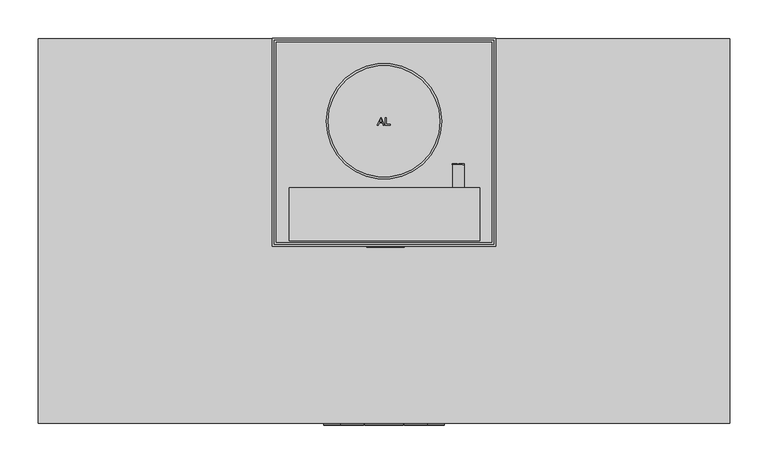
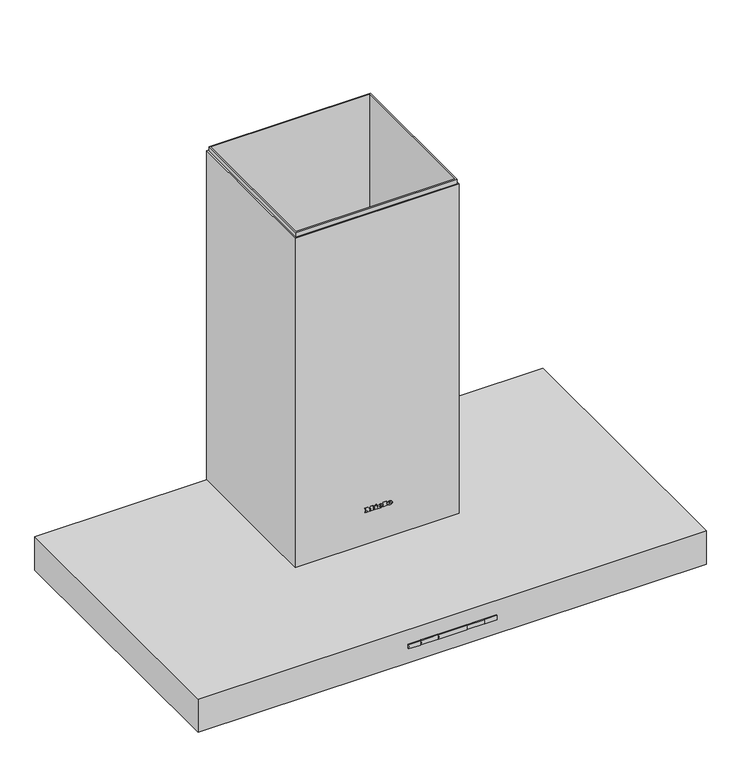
"""IFC4 building model written with IfcOpenShell, lengths in millimetres: proxy geometry, 12540930_CH_PUR98W_MASW : 28419855_CH_12540930_PUR98W_MASW."""

from ifc_helpers import new_model, si_unit, point, frame, frame_2d, origin, place, context, project, spatial, polyline, circle_curve, ellipse_curve, trimmed, segment, composite_curve, outline, extrude, faceted_brep, source, transform, mapped, element, save
from ifc_brep_helpers import plane_surface, cylinder_surface, revolved_surface, extruded_surface, advanced_brep


def specialty_equipment_63e72537(model_context):
    return source(origin(), model_context, "Body", "SolidModel", [
        advanced_brep(
        [(-27.2862224, -435.7, 0.8), (27.2862224, -435.7, 0.8), (29.0, -435.7, 2.0), (-29.0, -435.7, 2.0), (0.0, -435.7, 0.8), (0.0, -435.7, 2.0)],
        [
            (0, 1, circle_curve(frame((0.0, -435.7, 0.8), z_axis=(0.0, 0.0, 1.0), x_axis=(1.0, 0.0, 0.0)), 27.2862224)),
            (1, 2),
            (2, 3, circle_curve(frame((0.0, -435.7, 2.0), z_axis=(0.0, 0.0, -1.0), x_axis=(1.0, 0.0, 0.0)), 29.0)),
            (3, 0),
            (1, 0, circle_curve(frame((0.0, -435.7, 0.8), z_axis=(0.0, 0.0, 1.0), x_axis=(1.0, 0.0, 0.0)), 27.2862224)),
            (3, 2, circle_curve(frame((0.0, -435.7, 2.0), z_axis=(0.0, 0.0, -1.0), x_axis=(1.0, 0.0, 0.0)), 29.0)),
            (4, 1),
            (0, 4),
            (2, 5),
            (5, 3),
        ],
        [
            revolved_surface(polyline([(29.0, -435.7, 2.0), (27.2862224, -435.7, 0.8)]), (0.0, -435.7, 1830.7560264), (0.0, 0.0, -1.0)),
            plane_surface(frame((0.0, -435.7, 0.8), z_axis=(0.0, 0.0, -1.0), x_axis=(1.0, 0.0, 0.0))),
            plane_surface(frame((0.0, -435.7, 2.0), z_axis=(0.0, 0.0, 1.0), x_axis=(1.0, 0.0, 0.0))),
        ],
        [
            (0, [[1, 2, 3, 4]]),
            (0, [[5, -4, 6, -2]]),
            (1, [[7, -1, 8]]),
            (1, [[-8, -5, -7]]),
            (2, [[-3, 9, 10]]),
            (2, [[-6, -10, -9]]),
        ],
    ),
        advanced_brep(
        [(-296.5433287, -435.7, 0.8), (-243.4566713, -435.7, 0.8), (-240.883263, -435.7, 2.0), (-299.116737, -435.7, 2.0), (-270.0, -435.7, 0.8), (-270.0, -435.7, 2.0)],
        [
            (0, 1, circle_curve(frame((-270.0, -435.7, 0.8), z_axis=(0.0, 0.0, 1.0), x_axis=(1.0, 0.0, 0.0)), 26.5433287)),
            (1, 2),
            (2, 3, circle_curve(frame((-270.0, -435.7, 2.0), z_axis=(0.0, 0.0, -1.0), x_axis=(1.0, 0.0, 0.0)), 29.116737)),
            (3, 0),
            (1, 0, circle_curve(frame((-270.0, -435.7, 0.8), z_axis=(0.0, 0.0, 1.0), x_axis=(1.0, 0.0, 0.0)), 26.5433287)),
            (3, 2, circle_curve(frame((-270.0, -435.7, 2.0), z_axis=(0.0, 0.0, -1.0), x_axis=(1.0, 0.0, 0.0)), 29.116737)),
            (0, 4),
            (4, 1),
            (2, 5),
            (5, 3),
        ],
        [
            revolved_surface(polyline([(-240.883263, -435.7, 2.0), (-243.4566713, -435.7, 0.8)]), (-270.0, -435.7, 2240.4), (0.0, 0.0, -1.0)),
            plane_surface(frame((-270.0, -435.7, 0.8), z_axis=(0.0, 0.0, -1.0), x_axis=(1.0, 0.0, 0.0))),
            plane_surface(frame((-270.0, -435.7, 2.0), z_axis=(0.0, 0.0, 1.0), x_axis=(1.0, 0.0, 0.0))),
        ],
        [
            (0, [[1, 2, 3, 4]]),
            (0, [[-2, 5, -4, 6]]),
            (1, [[-1, 7, 8]]),
            (1, [[-5, -8, -7]]),
            (2, [[-3, 9, 10]]),
            (2, [[-6, -10, -9]]),
        ],
    ),
        advanced_brep(
        [(243.4566713, -435.7, 0.8), (296.5433287, -435.7, 0.8), (299.116737, -435.7, 2.0), (240.883263, -435.7, 2.0), (270.0, -435.7, 0.8), (270.0, -435.7, 2.0)],
        [
            (0, 1, circle_curve(frame((270.0, -435.7, 0.8), z_axis=(0.0, 0.0, 1.0), x_axis=(1.0, 0.0, 0.0)), 26.5433287)),
            (1, 2),
            (2, 3, circle_curve(frame((270.0, -435.7, 2.0), z_axis=(0.0, 0.0, -1.0), x_axis=(1.0, 0.0, 0.0)), 29.116737)),
            (3, 0),
            (1, 0, circle_curve(frame((270.0, -435.7, 0.8), z_axis=(0.0, 0.0, 1.0), x_axis=(1.0, 0.0, 0.0)), 26.5433287)),
            (3, 2, circle_curve(frame((270.0, -435.7, 2.0), z_axis=(0.0, 0.0, -1.0), x_axis=(1.0, 0.0, 0.0)), 29.116737)),
            (0, 4),
            (4, 1),
            (2, 5),
            (5, 3),
        ],
        [
            revolved_surface(polyline([(299.116737, -435.7, 2.0), (296.5433287, -435.7, 0.8)]), (270.0, -435.7, 2240.4), (0.0, 0.0, -1.0)),
            plane_surface(frame((270.0, -435.7, 0.8), z_axis=(0.0, 0.0, -1.0), x_axis=(1.0, 0.0, 0.0))),
            plane_surface(frame((270.0, -435.7, 2.0), z_axis=(0.0, 0.0, 1.0), x_axis=(1.0, 0.0, 0.0))),
        ],
        [
            (0, [[1, 2, 3, 4]]),
            (0, [[-2, 5, -4, 6]]),
            (1, [[-1, 7, 8]]),
            (1, [[-5, -8, -7]]),
            (2, [[-3, 9, 10]]),
            (2, [[-6, -10, -9]]),
        ],
    ),
        extrude(outline(polyline([(134.3333333, -34.0), (134.3333333, -391.0), (-134.3333333, -391.0), (-134.3333333, -34.0), (134.3333333, -34.0)])), frame((0.0, 0.0, 6.5), z_axis=(0.0, 0.0, 1.0), x_axis=(1.0, 0.0, 0.0)), (0.0, 0.0, 1.0), 6.0),
        extrude(outline(polyline([(143.3333333, -25.0), (143.3333333, -400.0), (-143.3333333, -400.0), (-143.3333333, -25.0), (143.3333333, -25.0)]), holes=[polyline([(134.3333333, -34.0), (-134.3333333, -34.0), (-134.3333333, -391.0), (134.3333333, -391.0), (134.3333333, -34.0)])]), frame((0.0, 0.0, 5.0), z_axis=(0.0, 0.0, 1.0), x_axis=(1.0, 0.0, 0.0)), (0.0, 0.0, 1.0), 9.0),
        extrude(outline(polyline([(152.3333333, -34.0), (421.0, -34.0), (421.0, -391.0), (152.3333333, -391.0), (152.3333333, -34.0)])), frame((0.0, 0.0, 6.5), z_axis=(0.0, 0.0, 1.0), x_axis=(1.0, 0.0, 0.0)), (0.0, 0.0, 1.0), 6.0),
        extrude(outline(polyline([(143.3333333, -25.0), (430.0, -25.0), (430.0, -400.0), (143.3333333, -400.0), (143.3333333, -25.0)]), holes=[polyline([(152.3333333, -34.0), (152.3333333, -391.0), (421.0, -391.0), (421.0, -34.0), (152.3333333, -34.0)])]), frame((0.0, 0.0, 5.0), z_axis=(0.0, 0.0, 1.0), x_axis=(1.0, 0.0, 0.0)), (0.0, 0.0, 1.0), 9.0),
        extrude(outline(polyline([(-152.3333333, -34.0), (-152.3333333, -391.0), (-421.0, -391.0), (-421.0, -34.0), (-152.3333333, -34.0)])), frame((0.0, 0.0, 6.5), z_axis=(0.0, 0.0, 1.0), x_axis=(1.0, 0.0, 0.0)), (0.0, 0.0, 1.0), 6.0),
        extrude(outline(polyline([(-143.3333333, -25.0), (-143.3333333, -400.0), (-430.0, -400.0), (-430.0, -25.0), (-143.3333333, -25.0)]), holes=[polyline([(-152.3333333, -34.0), (-421.0, -34.0), (-421.0, -391.0), (-152.3333333, -391.0), (-152.3333333, -34.0)])]), frame((0.0, 0.0, 5.0), z_axis=(0.0, 0.0, 1.0), x_axis=(1.0, 0.0, 0.0)), (0.0, 0.0, 1.0), 9.0),
        extrude(outline(polyline([(16.5, -348.0), (16.5, -391.0), (-16.5, -391.0), (-16.5, -348.0), (16.5, -348.0)]), holes=[polyline([(10.0, -354.5), (-10.0, -354.5), (-10.0, -363.5), (10.0, -363.5), (10.0, -354.5)])]), frame((0.0, 0.0, 5.0), z_axis=(0.0, 0.0, 1.0), x_axis=(1.0, 0.0, 0.0)), (0.0, 0.0, 1.0), 1.5),
        extrude(outline(polyline([(270.1666667, -348.0), (303.1666667, -348.0), (303.1666667, -391.0), (270.1666667, -391.0), (270.1666667, -348.0)]), holes=[polyline([(276.6666667, -354.5), (276.6666667, -363.5), (296.4380995, -363.5), (296.4380995, -354.5), (276.6666667, -354.5)])]), frame((0.0, 0.0, 5.0), z_axis=(0.0, 0.0, 1.0), x_axis=(1.0, 0.0, 0.0)), (0.0, 0.0, 1.0), 1.5),
        extrude(outline(polyline([(-270.1666667, -348.0), (-270.1666667, -391.0), (-303.1666667, -391.0), (-303.1666667, -348.0), (-270.1666667, -348.0)]), holes=[polyline([(-276.6666667, -354.5), (-296.6666667, -354.5), (-296.6666667, -363.5), (-276.6666667, -363.5), (-276.6666667, -354.5)])]), frame((0.0, 0.0, 5.0), z_axis=(0.0, 0.0, 1.0), x_axis=(1.0, 0.0, 0.0)), (0.0, 0.0, 1.0), 1.5),
        faceted_brep([(140.0, -5.0, 685.0), (-140.0, -5.0, 685.0), (-140.0, -5.0, 210.0), (140.0, -5.0, 210.0), (-140.0, -265.0, 685.0), (140.0, -265.0, 685.0), (140.0, -265.0, 210.0), (-140.0, -265.0, 210.0), (121.0, -265.0, 245.0), (121.0, -265.0, 345.0), (109.0, -265.0, 345.0), (109.0, -265.0, 245.0), (-121.0, -265.0, 345.0), (-121.0, -265.0, 245.0), (-109.0, -265.0, 245.0), (-109.0, -265.0, 345.0), (-86.0, -265.0, 345.0), (-97.5, -265.0, 345.0), (-97.5, -265.0, 245.0), (-86.0, -265.0, 245.0), (-63.0, -265.0, 345.0), (-74.5, -265.0, 345.0), (-74.5, -265.0, 245.0), (-63.0, -265.0, 245.0), (-40.0, -265.0, 345.0), (-51.5, -265.0, 345.0), (-51.5, -265.0, 245.0), (-40.0, -265.0, 245.0), (-17.0, -265.0, 345.0), (-28.5, -265.0, 345.0), (-28.5, -265.0, 245.0), (-17.0, -265.0, 245.0), (5.5, -265.0, 345.0), (-5.5, -265.0, 345.0), (-5.5, -265.0, 245.0), (5.5, -265.0, 245.0), (28.5, -265.0, 345.0), (17.0, -265.0, 345.0), (17.0, -265.0, 245.0), (28.5, -265.0, 245.0), (51.5, -265.0, 345.0), (40.0, -265.0, 345.0), (40.0, -265.0, 245.0), (51.5, -265.0, 245.0), (74.5, -265.0, 345.0), (63.0, -265.0, 345.0), (63.0, -265.0, 245.0), (74.5, -265.0, 245.0), (97.5, -265.0, 345.0), (86.0, -265.0, 345.0), (86.0, -265.0, 245.0), (97.5, -265.0, 245.0), (-142.5, -65.4, 245.0), (-140.0, -65.4, 245.0), (-140.0, -65.4, 345.0), (-142.5, -65.4, 345.0), (-140.0, -76.0, 345.0), (-142.5, -76.0, 345.0), (-140.0, -44.2, 245.0), (-142.5, -44.2, 245.0), (-142.5, -54.8, 245.0), (-140.0, -54.8, 245.0), (-140.0, -44.2, 345.0), (-142.5, -44.2, 345.0), (-140.0, -23.0, 245.0), (-142.5, -23.0, 245.0), (-142.5, -33.6, 245.0), (-140.0, -33.6, 245.0), (-140.0, -23.0, 345.0), (-142.5, -23.0, 345.0), (-121.0, -267.5, 345.0), (-109.0, -267.5, 345.0), (-109.0, -267.5, 245.0), (-86.0, -267.5, 345.0), (-97.5, -267.5, 345.0), (-63.0, -267.5, 345.0), (-74.5, -267.5, 345.0), (-40.0, -267.5, 345.0), (-51.5, -267.5, 345.0), (-17.0, -267.5, 345.0), (-28.5, -267.5, 345.0), (5.5, -267.5, 345.0), (-5.5, -267.5, 345.0), (28.5, -267.5, 345.0), (17.0, -267.5, 345.0), (51.5, -267.5, 345.0), (40.0, -267.5, 345.0), (74.5, -267.5, 345.0), (63.0, -267.5, 345.0), (97.5, -267.5, 345.0), (86.0, -267.5, 345.0), (-142.5, -267.5, 685.0), (142.5, -267.5, 685.0), (142.5, -2.5, 685.0), (-142.5, -2.5, 685.0), (-142.5, -267.5, 210.0), (-142.5, -2.5, 210.0), (142.5, -2.5, 210.0), (142.5, -267.5, 210.0), (-142.5, -247.0, 245.0), (-142.5, -236.4, 245.0), (-142.5, -236.4, 345.0), (-142.5, -247.0, 345.0), (-142.5, -225.8, 245.0), (-142.5, -215.2, 245.0), (-142.5, -215.2, 345.0), (-142.5, -225.8, 345.0), (-142.5, -204.6, 245.0), (-142.5, -194.0, 245.0), (-142.5, -194.0, 345.0), (-142.5, -204.6, 345.0), (-142.5, -183.4, 245.0), (-142.5, -172.8, 245.0), (-142.5, -172.8, 345.0), (-142.5, -183.4, 345.0), (-142.5, -162.2, 245.0), (-142.5, -151.6, 245.0), (-142.5, -151.6, 345.0), (-142.5, -162.2, 345.0), (-142.5, -141.0, 245.0), (-142.5, -129.0, 245.0), (-142.5, -129.0, 345.0), (-142.5, -141.0, 345.0), (-142.5, -118.4, 245.0), (-142.5, -107.8, 245.0), (-142.5, -107.8, 345.0), (-142.5, -118.4, 345.0), (-142.5, -97.2, 245.0), (-142.5, -86.6, 245.0), (-142.5, -86.6, 345.0), (-142.5, -97.2, 345.0), (-142.5, -76.0, 245.0), (-142.5, -54.8, 345.0), (-142.5, -33.6, 345.0), (-140.0, -236.4, 245.0), (-140.0, -247.0, 245.0), (-140.0, -247.0, 345.0), (-140.0, -236.4, 345.0), (-140.0, -215.2, 245.0), (-140.0, -225.8, 245.0), (-140.0, -225.8, 345.0), (-140.0, -215.2, 345.0), (-140.0, -194.0, 245.0), (-140.0, -204.6, 245.0), (-140.0, -204.6, 345.0), (-140.0, -194.0, 345.0), (-140.0, -172.8, 245.0), (-140.0, -183.4, 245.0), (-140.0, -183.4, 345.0), (-140.0, -172.8, 345.0), (-140.0, -151.6, 245.0), (-140.0, -162.2, 245.0), (-140.0, -162.2, 345.0), (-140.0, -151.6, 345.0), (-140.0, -129.0, 245.0), (-140.0, -141.0, 245.0), (-140.0, -141.0, 345.0), (-140.0, -129.0, 345.0), (-140.0, -107.8, 245.0), (-140.0, -118.4, 245.0), (-140.0, -118.4, 345.0), (-140.0, -107.8, 345.0), (-140.0, -86.6, 245.0), (-140.0, -97.2, 245.0), (-140.0, -97.2, 345.0), (-140.0, -86.6, 345.0), (-140.0, -76.0, 245.0), (-140.0, -54.8, 345.0), (-140.0, -33.6, 345.0), (140.0, -162.2, 345.0), (140.0, -162.2, 245.0), (140.0, -151.6, 245.0), (140.0, -151.6, 345.0), (140.0, -44.2, 245.0), (140.0, -44.2, 345.0), (140.0, -54.8, 345.0), (140.0, -54.8, 245.0), (140.0, -65.4, 245.0), (140.0, -65.4, 345.0), (140.0, -76.0, 345.0), (140.0, -76.0, 245.0), (140.0, -86.6, 245.0), (140.0, -86.6, 345.0), (140.0, -97.2, 345.0), (140.0, -97.2, 245.0), (140.0, -107.8, 245.0), (140.0, -107.8, 345.0), (140.0, -118.4, 345.0), (140.0, -118.4, 245.0), (140.0, -129.0, 245.0), (140.0, -129.0, 345.0), (140.0, -141.0, 345.0), (140.0, -141.0, 245.0), (140.0, -247.0, 345.0), (140.0, -247.0, 245.0), (140.0, -236.4, 245.0), (140.0, -236.4, 345.0), (140.0, -23.0, 245.0), (140.0, -23.0, 345.0), (140.0, -33.6, 345.0), (140.0, -33.6, 245.0), (140.0, -225.8, 345.0), (140.0, -225.8, 245.0), (140.0, -215.2, 245.0), (140.0, -215.2, 345.0), (140.0, -204.6, 345.0), (140.0, -204.6, 245.0), (140.0, -194.0, 245.0), (140.0, -194.0, 345.0), (140.0, -183.4, 345.0), (140.0, -183.4, 245.0), (140.0, -172.8, 245.0), (140.0, -172.8, 345.0), (142.5, -225.8, 245.0), (142.5, -225.8, 345.0), (142.5, -215.2, 345.0), (142.5, -215.2, 245.0), (142.5, -204.6, 245.0), (142.5, -204.6, 345.0), (142.5, -194.0, 345.0), (142.5, -194.0, 245.0), (142.5, -183.4, 245.0), (142.5, -183.4, 345.0), (142.5, -172.8, 345.0), (142.5, -172.8, 245.0), (142.5, -162.2, 245.0), (142.5, -162.2, 345.0), (142.5, -151.6, 345.0), (142.5, -151.6, 245.0), (142.5, -44.2, 345.0), (142.5, -44.2, 245.0), (142.5, -54.8, 245.0), (142.5, -54.8, 345.0), (142.5, -65.4, 345.0), (142.5, -65.4, 245.0), (142.5, -76.0, 245.0), (142.5, -76.0, 345.0), (142.5, -86.6, 345.0), (142.5, -86.6, 245.0), (142.5, -97.2, 245.0), (142.5, -97.2, 345.0), (142.5, -107.8, 345.0), (142.5, -107.8, 245.0), (142.5, -118.4, 245.0), (142.5, -118.4, 345.0), (142.5, -129.0, 345.0), (142.5, -129.0, 245.0), (142.5, -141.0, 245.0), (142.5, -141.0, 345.0), (142.5, -23.0, 345.0), (142.5, -23.0, 245.0), (142.5, -33.6, 245.0), (142.5, -33.6, 345.0), (142.5, -247.0, 245.0), (142.5, -247.0, 345.0), (142.5, -236.4, 345.0), (142.5, -236.4, 245.0), (-86.0, -267.5, 245.0), (-97.5, -267.5, 245.0), (-63.0, -267.5, 245.0), (-74.5, -267.5, 245.0), (-40.0, -267.5, 245.0), (-51.5, -267.5, 245.0), (-17.0, -267.5, 245.0), (-28.5, -267.5, 245.0), (5.5, -267.5, 245.0), (-5.5, -267.5, 245.0), (28.5, -267.5, 245.0), (17.0, -267.5, 245.0), (51.5, -267.5, 245.0), (40.0, -267.5, 245.0), (74.5, -267.5, 245.0), (63.0, -267.5, 245.0), (97.5, -267.5, 245.0), (86.0, -267.5, 245.0), (121.0, -267.5, 345.0), (121.0, -267.5, 245.0), (109.0, -267.5, 245.0), (109.0, -267.5, 345.0), (-121.0, -267.5, 245.0)], [[[0, 1, 2, 3]], [[4, 5, 6, 7], [8, 9, 10, 11], [12, 13, 14, 15], [16, 17, 18, 19], [20, 21, 22, 23], [24, 25, 26, 27], [28, 29, 30, 31], [32, 33, 34, 35], [36, 37, 38, 39], [40, 41, 42, 43], [44, 45, 46, 47], [48, 49, 50, 51]], [[52, 53, 54, 55]], [[55, 54, 56, 57]], [[58, 59, 60, 61]], [[59, 58, 62, 63]], [[64, 65, 66, 67]], [[65, 64, 68, 69]], [[70, 12, 15, 71]], [[71, 15, 14, 72]], [[16, 73, 74, 17]], [[20, 75, 76, 21]], [[24, 77, 78, 25]], [[28, 79, 80, 29]], [[32, 81, 82, 33]], [[36, 83, 84, 37]], [[40, 85, 86, 41]], [[44, 87, 88, 45]], [[48, 89, 90, 49]], [[91, 92, 93, 94], [0, 5, 4, 1]], [[95, 96, 97, 98], [3, 2, 7, 6]], [[91, 94, 96, 95], [99, 100, 101, 102], [103, 104, 105, 106], [107, 108, 109, 110], [111, 112, 113, 114], [115, 116, 117, 118], [119, 120, 121, 122], [123, 124, 125, 126], [127, 128, 129, 130], [131, 52, 55, 57], [60, 59, 63, 132], [66, 65, 69, 133]], [[1, 4, 7, 2], [134, 135, 136, 137], [138, 139, 140, 141], [142, 143, 144, 145], [146, 147, 148, 149], [150, 151, 152, 153], [154, 155, 156, 157], [158, 159, 160, 161], [162, 163, 164, 165], [53, 166, 56, 54], [58, 61, 167, 62], [64, 67, 168, 68]], [[5, 0, 3, 6], [169, 170, 171, 172], [173, 174, 175, 176], [177, 178, 179, 180], [181, 182, 183, 184], [185, 186, 187, 188], [189, 190, 191, 192], [193, 194, 195, 196], [197, 198, 199, 200], [201, 202, 203, 204], [205, 206, 207, 208], [209, 210, 211, 212]], [[93, 92, 98, 97], [213, 214, 215, 216], [217, 218, 219, 220], [221, 222, 223, 224], [225, 226, 227, 228], [229, 230, 231, 232], [233, 234, 235, 236], [237, 238, 239, 240], [241, 242, 243, 244], [245, 246, 247, 248], [249, 250, 251, 252], [253, 254, 255, 256]], [[92, 91, 95, 98], [74, 73, 257, 258], [76, 75, 259, 260], [78, 77, 261, 262], [80, 79, 263, 264], [82, 81, 265, 266], [84, 83, 267, 268], [86, 85, 269, 270], [88, 87, 271, 272], [90, 89, 273, 274], [275, 276, 277, 278], [279, 70, 71, 72]], [[94, 93, 97, 96]], [[8, 276, 275, 9]], [[12, 70, 279, 13]], [[253, 194, 193, 254]], [[249, 198, 197, 250]], [[194, 253, 256, 195]], [[195, 256, 255, 196]], [[254, 193, 196, 255]], [[198, 249, 252, 199]], [[199, 252, 251, 200]], [[250, 197, 200, 251]], [[213, 202, 201, 214]], [[202, 213, 216, 203]], [[203, 216, 215, 204]], [[214, 201, 204, 215]], [[217, 206, 205, 218]], [[206, 217, 220, 207]], [[207, 220, 219, 208]], [[218, 205, 208, 219]], [[221, 210, 209, 222]], [[210, 221, 224, 211]], [[211, 224, 223, 212]], [[222, 209, 212, 223]], [[225, 170, 169, 226]], [[170, 225, 228, 171]], [[171, 228, 227, 172]], [[226, 169, 172, 227]], [[229, 174, 173, 230]], [[174, 229, 232, 175]], [[175, 232, 231, 176]], [[230, 173, 176, 231]], [[233, 178, 177, 234]], [[178, 233, 236, 179]], [[179, 236, 235, 180]], [[234, 177, 180, 235]], [[237, 182, 181, 238]], [[182, 237, 240, 183]], [[183, 240, 239, 184]], [[238, 181, 184, 239]], [[241, 186, 185, 242]], [[186, 241, 244, 187]], [[187, 244, 243, 188]], [[242, 185, 188, 243]], [[245, 190, 189, 246]], [[190, 245, 248, 191]], [[191, 248, 247, 192]], [[246, 189, 192, 247]], [[134, 100, 99, 135]], [[100, 134, 137, 101]], [[101, 137, 136, 102]], [[135, 99, 102, 136]], [[138, 104, 103, 139]], [[104, 138, 141, 105]], [[105, 141, 140, 106]], [[139, 103, 106, 140]], [[142, 108, 107, 143]], [[108, 142, 145, 109]], [[109, 145, 144, 110]], [[143, 107, 110, 144]], [[146, 112, 111, 147]], [[112, 146, 149, 113]], [[113, 149, 148, 114]], [[147, 111, 114, 148]], [[150, 116, 115, 151]], [[116, 150, 153, 117]], [[117, 153, 152, 118]], [[151, 115, 118, 152]], [[154, 120, 119, 155]], [[120, 154, 157, 121]], [[121, 157, 156, 122]], [[155, 119, 122, 156]], [[158, 124, 123, 159]], [[124, 158, 161, 125]], [[125, 161, 160, 126]], [[159, 123, 126, 160]], [[162, 128, 127, 163]], [[128, 162, 165, 129]], [[129, 165, 164, 130]], [[163, 127, 130, 164]], [[53, 52, 131, 166]], [[166, 131, 57, 56]], [[63, 62, 167, 132]], [[61, 60, 132, 167]], [[69, 68, 168, 133]], [[67, 66, 133, 168]], [[13, 279, 72, 14]], [[276, 8, 11, 277]], [[277, 11, 10, 278]], [[9, 275, 278, 10]], [[73, 16, 19, 257]], [[257, 19, 18, 258]], [[17, 74, 258, 18]], [[75, 20, 23, 259]], [[259, 23, 22, 260]], [[21, 76, 260, 22]], [[77, 24, 27, 261]], [[261, 27, 26, 262]], [[25, 78, 262, 26]], [[79, 28, 31, 263]], [[263, 31, 30, 264]], [[29, 80, 264, 30]], [[81, 32, 35, 265]], [[265, 35, 34, 266]], [[33, 82, 266, 34]], [[83, 36, 39, 267]], [[267, 39, 38, 268]], [[37, 84, 268, 38]], [[85, 40, 43, 269]], [[269, 43, 42, 270]], [[41, 86, 270, 42]], [[87, 44, 47, 271]], [[271, 47, 46, 272]], [[45, 88, 272, 46]], [[89, 48, 51, 273]], [[273, 51, 50, 274]], [[49, 90, 274, 50]]]),
        extrude(outline(polyline([(145.0, 0.0), (145.0, -270.0), (-145.0, -270.0), (-145.0, 0.0), (145.0, 0.0)]), holes=[polyline([(-142.5, -2.5), (-142.5, -267.5), (142.5, -267.5), (142.5, -2.5), (-142.5, -2.5)])]), frame((0.0, 0.0, 62.0), z_axis=(0.0, 0.0, 1.0), x_axis=(1.0, 0.0, 0.0)), (0.0, 0.0, 1.0), 615.0),
        advanced_brep(
        [(21.104, -271.0, 123.896), (21.104, -271.0, 124.704), (26.456, -271.0, 124.704), (17.144, -271.0, 124.704), (19.344, -271.0, 122.0), (26.32, -271.0, 123.896), (23.904, -271.0, 123.896), (22.0, -271.0, 123.0), (21.104, -271.0, 125.728), (21.104, -271.0, 126.6), (22.472, -271.0, 126.6), (22.472, -271.0, 125.728), (21.104, -270.0, 123.896), (22.0, -270.0, 123.0), (23.904, -270.0, 123.896), (26.32, -270.0, 123.896), (19.344, -270.0, 122.0), (17.144, -270.0, 124.704), (26.456, -270.0, 124.704), (21.104, -270.0, 124.704), (21.104, -270.0, 125.728), (22.472, -270.0, 125.728), (22.472, -270.0, 126.6), (21.104, -270.0, 126.6)],
        [
            (0, 1),
            (1, 2),
            (2, 3, ellipse_curve(frame((21.8, -271.0, 124.704), z_axis=(0.0, -1.0, -1.2192856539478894e-11), x_axis=(-1.0, 0.0, 0.0)), 4.656, 3.848)),
            (3, 4, circle_curve(frame((20.2400436, -271.0, 124.976), z_axis=(0.0, -1.0, -1.2192856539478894e-11), x_axis=(0.0, 1.2192856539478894e-11, -1.0)), 3.1079688)),
            (4, 5, circle_curve(frame((21.7067936, -271.0, 127.088), z_axis=(0.0, -1.0, -1.2192856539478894e-11), x_axis=(0.0, 1.2192856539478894e-11, -1.0)), 5.6098607)),
            (5, 6),
            (6, 7, circle_curve(frame((22.3910588, -271.0, 124.64), z_axis=(0.0, 1.0, 1.2192856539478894e-11), x_axis=(0.0, 1.2192856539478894e-11, -1.0)), 1.6859795)),
            (7, 0, circle_curve(frame((22.0, -271.0, 123.896), z_axis=(0.0, 1.0, 1.2192856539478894e-11), x_axis=(0.0, 1.2192856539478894e-11, -1.0)), 0.896)),
            (8, 9),
            (9, 10, circle_curve(frame((21.788, -271.0, 126.6), z_axis=(0.0, 1.0, 1.2192856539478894e-11), x_axis=(0.0, 1.2192856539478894e-11, -1.0)), 0.684)),
            (10, 11),
            (11, 8),
            (12, 13, circle_curve(frame((22.0, -270.0, 123.896), z_axis=(0.0, -1.0, -1.2192856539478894e-11), x_axis=(0.0, 1.2192856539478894e-11, -1.0)), 0.896)),
            (13, 14, circle_curve(frame((22.3910588, -270.0, 124.64), z_axis=(0.0, -1.0, -1.2192856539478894e-11), x_axis=(0.0, 1.2192856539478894e-11, -1.0)), 1.6859795)),
            (14, 15),
            (15, 16, circle_curve(frame((21.7067936, -270.0, 127.088), z_axis=(0.0, 1.0, 1.2192856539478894e-11), x_axis=(0.0, 1.2192856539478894e-11, -1.0)), 5.6098607)),
            (16, 17, circle_curve(frame((20.2400436, -270.0, 124.976), z_axis=(0.0, 1.0, 1.2192856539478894e-11), x_axis=(0.0, 1.2192856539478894e-11, -1.0)), 3.1079688)),
            (17, 18, ellipse_curve(frame((21.8, -270.0, 124.704), z_axis=(0.0, 1.0, 1.2192856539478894e-11), x_axis=(-1.0, 0.0, 0.0)), 4.656, 3.848)),
            (18, 19),
            (19, 12),
            (20, 21),
            (21, 22),
            (22, 23, circle_curve(frame((21.788, -270.0, 126.6), z_axis=(0.0, -1.0, -1.2192856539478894e-11), x_axis=(0.0, 1.2192856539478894e-11, -1.0)), 0.684)),
            (23, 20),
            (0, 12),
            (19, 1),
            (18, 2),
            (5, 15),
            (14, 6),
            (17, 3),
            (13, 7),
            (16, 4),
            (8, 20),
            (23, 9),
            (22, 10),
            (21, 11),
        ],
        [
            plane_surface(frame((21.104, -271.0, 124.704), z_axis=(0.0, -1.0, -1.2192856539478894e-11), x_axis=(0.0, -1.2192856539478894e-11, 1.0))),
            plane_surface(frame((21.104, -270.0, 124.704), z_axis=(0.0, 1.0, 1.2192856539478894e-11), x_axis=(0.0, 1.2192856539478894e-11, -1.0))),
            plane_surface(frame((21.104, -271.0, 123.896), z_axis=(1.0, 0.0, 0.0), x_axis=(0.0, 1.0, 1.2192856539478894e-11))),
            plane_surface(frame((21.104, -271.0, 124.704), z_axis=(0.0, 1.2192856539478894e-11, -1.0), x_axis=(0.0, 1.0, 1.2192856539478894e-11))),
            plane_surface(frame((26.32, -271.0, 123.896), z_axis=(0.0, -1.2192856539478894e-11, 1.0), x_axis=(0.0, 1.0, 1.2192856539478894e-11))),
            extruded_surface(trimmed(ellipse_curve(frame((21.8, -269.0, 124.704), z_axis=(0.0, -1.0, -1.2192856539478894e-11), x_axis=(-1.0, 0.0, 0.0)), 4.656, 3.848), [point((26.456, -269.0, 124.704))], [point((17.144, -269.0, 124.704))], True, "CARTESIAN"), (0.0, -1.0, 0.0), 1.0),
            revolved_surface(polyline([(22.3910588, -269.9999999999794, 122.9540205), (22.3910588, -270.99999999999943, 122.9540204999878)]), (22.3910588, -270.0, 124.64), (0.0, 1.0, 1.2192856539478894e-11)),
            revolved_surface(polyline([(22.0, -269.9999999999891, 123.0), (22.0, -271.0, 122.9999999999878)]), (22.0, -270.0, 123.896), (0.0, 1.0, 1.2192856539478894e-11)),
            cylinder_surface(frame((20.2400436, -270.0, 124.976), z_axis=(0.0, -1.0, -1.2192856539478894e-11), x_axis=(0.0, 1.2192856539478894e-11, -1.0)), 3.1079688),
            cylinder_surface(frame((21.7067936, -270.0, 127.088), z_axis=(0.0, -1.0, -1.2192856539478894e-11), x_axis=(0.0, 1.2192856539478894e-11, -1.0)), 5.6098607),
            plane_surface(frame((21.104, -271.0, 125.728), z_axis=(1.0, 0.0, 0.0), x_axis=(0.0, 1.0, 1.2192856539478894e-11))),
            revolved_surface(polyline([(21.788, -269.99999999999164, 125.916), (21.788, -270.99999999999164, 125.9159999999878)]), (21.788, -270.0, 126.6), (0.0, 1.0, 1.2192856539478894e-11)),
            plane_surface(frame((22.472, -271.0, 126.6), z_axis=(-1.0, 0.0, 0.0), x_axis=(0.0, 1.0, 1.2192856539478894e-11))),
            plane_surface(frame((22.472, -271.0, 125.728), z_axis=(0.0, -1.2192856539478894e-11, 1.0), x_axis=(0.0, 1.0, 1.2192856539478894e-11))),
        ],
        [
            (0, [[1, 2, 3, 4, 5, 6, 7, 8], [9, 10, 11, 12]]),
            (1, [[13, 14, 15, 16, 17, 18, 19, 20], [21, 22, 23, 24]]),
            (2, [[-1, 25, -20, 26]]),
            (3, [[-2, -26, -19, 27]]),
            (4, [[-6, 28, -15, 29]]),
            (5, [[-3, -27, -18, 30]]),
            (6, [[-7, -29, -14, 31]]),
            (7, [[-8, -31, -13, -25]]),
            (8, [[-4, -30, -17, 32]]),
            (9, [[-5, -32, -16, -28]]),
            (10, [[-9, 33, -24, 34]]),
            (11, [[-10, -34, -23, 35]]),
            (12, [[-11, -35, -22, 36]]),
            (13, [[-12, -36, -21, -33]]),
        ],
    ),
        advanced_brep(
        [(4.408, -271.0, 123.896), (4.408, -271.0, 124.704), (9.76, -271.0, 124.704), (0.448, -271.0, 124.704), (2.648, -271.0, 122.0), (9.624, -271.0, 123.896), (7.208, -271.0, 123.896), (5.304, -271.0, 123.0), (4.408, -271.0, 125.728), (4.408, -271.0, 126.6), (5.776, -271.0, 126.6), (5.776, -271.0, 125.728), (4.408, -270.0, 123.896), (5.304, -270.0, 123.0), (7.208, -270.0, 123.896), (9.624, -270.0, 123.896), (2.648, -270.0, 122.0), (0.448, -270.0, 124.704), (9.76, -270.0, 124.704), (4.408, -270.0, 124.704), (4.408, -270.0, 125.728), (5.776, -270.0, 125.728), (5.776, -270.0, 126.6), (4.408, -270.0, 126.6)],
        [
            (0, 1),
            (1, 2),
            (2, 3, ellipse_curve(frame((5.104, -271.0, 124.704), z_axis=(0.0, -1.0, -1.2192856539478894e-11), x_axis=(-1.0, 0.0, 0.0)), 4.656, 3.848)),
            (3, 4, circle_curve(frame((3.5440436, -271.0, 124.976), z_axis=(0.0, -1.0, -1.2192856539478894e-11), x_axis=(0.0, 1.2192856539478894e-11, -1.0)), 3.1079688)),
            (4, 5, circle_curve(frame((5.0107936, -271.0, 127.088), z_axis=(0.0, -1.0, -1.2192856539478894e-11), x_axis=(0.0, 1.2192856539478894e-11, -1.0)), 5.6098607)),
            (5, 6),
            (6, 7, circle_curve(frame((5.6950588, -271.0, 124.64), z_axis=(0.0, 1.0, 1.2192856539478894e-11), x_axis=(0.0, 1.2192856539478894e-11, -1.0)), 1.6859795)),
            (7, 0, circle_curve(frame((5.304, -271.0, 123.896), z_axis=(0.0, 1.0, 1.2192856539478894e-11), x_axis=(0.0, 1.2192856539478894e-11, -1.0)), 0.896)),
            (8, 9),
            (9, 10, circle_curve(frame((5.092, -271.0, 126.6), z_axis=(0.0, 1.0, 1.2192856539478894e-11), x_axis=(0.0, 1.2192856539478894e-11, -1.0)), 0.684)),
            (10, 11),
            (11, 8),
            (12, 13, circle_curve(frame((5.304, -270.0, 123.896), z_axis=(0.0, -1.0, -1.2192856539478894e-11), x_axis=(0.0, 1.2192856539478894e-11, -1.0)), 0.896)),
            (13, 14, circle_curve(frame((5.6950588, -270.0, 124.64), z_axis=(0.0, -1.0, -1.2192856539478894e-11), x_axis=(0.0, 1.2192856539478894e-11, -1.0)), 1.6859795)),
            (14, 15),
            (15, 16, circle_curve(frame((5.0107936, -270.0, 127.088), z_axis=(0.0, 1.0, 1.2192856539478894e-11), x_axis=(0.0, 1.2192856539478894e-11, -1.0)), 5.6098607)),
            (16, 17, circle_curve(frame((3.5440436, -270.0, 124.976), z_axis=(0.0, 1.0, 1.2192856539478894e-11), x_axis=(0.0, 1.2192856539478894e-11, -1.0)), 3.1079688)),
            (17, 18, ellipse_curve(frame((5.104, -270.0, 124.704), z_axis=(0.0, 1.0, 1.2192856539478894e-11), x_axis=(-1.0, 0.0, 0.0)), 4.656, 3.848)),
            (18, 19),
            (19, 12),
            (20, 21),
            (21, 22),
            (22, 23, circle_curve(frame((5.092, -270.0, 126.6), z_axis=(0.0, -1.0, -1.2192856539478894e-11), x_axis=(0.0, 1.2192856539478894e-11, -1.0)), 0.684)),
            (23, 20),
            (0, 12),
            (19, 1),
            (18, 2),
            (5, 15),
            (14, 6),
            (17, 3),
            (13, 7),
            (16, 4),
            (8, 20),
            (23, 9),
            (22, 10),
            (21, 11),
        ],
        [
            plane_surface(frame((4.408, -271.0, 124.704), z_axis=(0.0, -1.0, -1.2192856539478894e-11), x_axis=(0.0, -1.2192856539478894e-11, 1.0))),
            plane_surface(frame((4.408, -270.0, 124.704), z_axis=(0.0, 1.0, 1.2192856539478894e-11), x_axis=(0.0, 1.2192856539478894e-11, -1.0))),
            plane_surface(frame((4.408, -271.0, 123.896), z_axis=(1.0, 0.0, 0.0), x_axis=(0.0, 1.0, 1.2192856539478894e-11))),
            plane_surface(frame((4.408, -271.0, 124.704), z_axis=(0.0, 1.2192856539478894e-11, -1.0), x_axis=(0.0, 1.0, 1.2192856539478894e-11))),
            plane_surface(frame((9.624, -271.0, 123.896), z_axis=(0.0, -1.2192856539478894e-11, 1.0), x_axis=(0.0, 1.0, 1.2192856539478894e-11))),
            extruded_surface(trimmed(ellipse_curve(frame((5.104, -269.0, 124.704), z_axis=(0.0, -1.0, -1.2192856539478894e-11), x_axis=(-1.0, 0.0, 0.0)), 4.656, 3.848), [point((9.76, -269.0, 124.704))], [point((0.448, -269.0, 124.704))], True, "CARTESIAN"), (0.0, -1.0, 0.0), 1.0),
            revolved_surface(polyline([(5.6950588, -269.9999999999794, 122.9540205), (5.6950588, -270.99999999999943, 122.9540204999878)]), (5.6950588, -270.0, 124.64), (0.0, 1.0, 1.2192856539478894e-11)),
            revolved_surface(polyline([(5.304, -269.9999999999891, 123.0), (5.304, -271.0, 122.9999999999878)]), (5.304, -270.0, 123.896), (0.0, 1.0, 1.2192856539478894e-11)),
            cylinder_surface(frame((3.5440436, -270.0, 124.976), z_axis=(0.0, -1.0, -1.2192856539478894e-11), x_axis=(0.0, 1.2192856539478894e-11, -1.0)), 3.1079688),
            cylinder_surface(frame((5.0107936, -270.0, 127.088), z_axis=(0.0, -1.0, -1.2192856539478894e-11), x_axis=(0.0, 1.2192856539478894e-11, -1.0)), 5.6098607),
            plane_surface(frame((4.408, -271.0, 125.728), z_axis=(1.0, 0.0, 0.0), x_axis=(0.0, 1.0, 1.2192856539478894e-11))),
            revolved_surface(polyline([(5.092, -269.99999999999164, 125.916), (5.092, -270.99999999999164, 125.9159999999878)]), (5.092, -270.0, 126.6), (0.0, 1.0, 1.2192856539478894e-11)),
            plane_surface(frame((5.776, -271.0, 126.6), z_axis=(-1.0, 0.0, 0.0), x_axis=(0.0, 1.0, 1.2192856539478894e-11))),
            plane_surface(frame((5.776, -271.0, 125.728), z_axis=(0.0, -1.2192856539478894e-11, 1.0), x_axis=(0.0, 1.0, 1.2192856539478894e-11))),
        ],
        [
            (0, [[1, 2, 3, 4, 5, 6, 7, 8], [9, 10, 11, 12]]),
            (1, [[13, 14, 15, 16, 17, 18, 19, 20], [21, 22, 23, 24]]),
            (2, [[-1, 25, -20, 26]]),
            (3, [[-2, -26, -19, 27]]),
            (4, [[-6, 28, -15, 29]]),
            (5, [[-3, -27, -18, 30]]),
            (6, [[-7, -29, -14, 31]]),
            (7, [[-8, -31, -13, -25]]),
            (8, [[-4, -30, -17, 32]]),
            (9, [[-5, -32, -16, -28]]),
            (10, [[-9, 33, -24, 34]]),
            (11, [[-10, -34, -23, 35]]),
            (12, [[-11, -35, -22, 36]]),
            (13, [[-12, -36, -21, -33]]),
        ],
    ),
        extrude(outline(polyline([(0.0, 0.0), (1.4315306, 0.0), (1.4390415, -2.9920868), (0.0109086, -2.9993294), (0.0, 0.0)])), frame((-4.336, -271.0, 129.528), z_axis=(0.0, 1.0, 1.2192856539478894e-11), x_axis=(0.42472021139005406, 1.1041186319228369e-11, -0.9053246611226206)), (0.0, 0.0, 1.0), 1.0),
        extrude(outline(polyline([(0.4933908, 2.4141097), (1.7898157, 3.022309), (2.1941493, 2.1604399), (5.1636142, 3.5535222), (4.7592806, 4.4153913), (5.9760369, 4.9862153), (8.6568709, -0.728194), (7.4401145, -1.2990179), (7.0459742, -0.4588767), (2.7800844, -2.4601583), (0.4933908, 2.4141097)])), frame((-4.336, -271.0, 129.528), z_axis=(0.0, 1.0, 1.2192856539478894e-11), x_axis=(0.42472021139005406, 1.1041186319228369e-11, -0.9053246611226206)), (0.0, 0.0, 1.0), 1.0),
        extrude(outline(polyline([(0.0, 0.0), (0.96, 0.0), (0.96, 5.352), (0.0, 5.352), (0.0, 6.696), (6.488, 6.696), (6.488, 5.352), (5.504, 5.352), (5.504, -1.304), (0.0, -1.304), (0.0, 0.0)])), frame((10.208, -271.0, 128.696), z_axis=(0.0, 1.0, 1.2192856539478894e-11), x_axis=(1.0, 0.0, 0.0)), (0.0, 0.0, 1.0), 1.0),
        extrude(outline(polyline([(0.0, 0.0), (0.968, 0.0), (0.968, 5.352), (0.0, 5.352), (0.0, 6.696), (3.52, 6.696), (3.52, 5.352), (2.56, 5.352), (2.56, 1.9488753), (6.136, 6.696), (9.728, 1.8807777), (9.728, 5.352), (8.744, 5.352), (8.744, 6.696), (15.128, 6.696), (15.128, 5.352), (14.112, 5.352), (14.112, 0.0), (15.128, 0.0), (15.128, -1.304), (10.256, -1.304), (7.92, 1.696), (5.576, -1.304), (0.0, -1.304), (0.0, 0.0)])), frame((-22.256, -271.0, 128.696), z_axis=(0.0, 1.0, 1.2192856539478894e-11), x_axis=(1.0, 0.0, 0.0)), (0.0, 0.0, 1.0), 1.0),
        extrude(outline(composite_curve([segment(polyline([(-500.0, 27.0), (-501.8150871, 27.0)]), True, "CONTINUOUS"), segment(trimmed(circle_curve(frame_2d((-482.0150871, 31.0)), 20.2), [point((-501.8150871, 27.0))], [point((-501.8150871, 35.0))], False, "CARTESIAN"), True, "CONTINUOUS"), segment(polyline([(-501.8150871, 35.0), (-500.0, 35.0), (-500.0, 27.0)]), True, "CONTINUOUS")], self_intersect=False)), frame((57.0, 0.0, 0.0), z_axis=(1.0, 0.0, 0.0), x_axis=(0.0, 1.0, 0.0)), (0.0, 0.0, 1.0), 21.0),
        extrude(outline(composite_curve([segment(trimmed(circle_curve(frame_2d((-482.0150871, 31.0)), 20.2), [point((-501.8150871, 27.0))], [point((-501.8150871, 35.0))], False, "CARTESIAN"), True, "CONTINUOUS"), segment(polyline([(-501.8150871, 35.0), (-500.0, 35.0), (-500.0, 27.0), (-501.8150871, 27.0)]), True, "CONTINUOUS")], self_intersect=False)), frame((-78.0, 0.0, 0.0), z_axis=(1.0, 0.0, 0.0), x_axis=(0.0, 1.0, 0.0)), (0.0, 0.0, 1.0), 21.0),
        extrude(outline(composite_curve([segment(polyline([(-500.0, 27.0), (-501.8150871, 27.0)]), True, "CONTINUOUS"), segment(trimmed(circle_curve(frame_2d((-482.0150871, 31.0)), 20.2), [point((-501.8150871, 27.0))], [point((-501.8150871, 35.0))], False, "CARTESIAN"), True, "CONTINUOUS"), segment(polyline([(-501.8150871, 35.0), (-500.0, 35.0), (-500.0, 27.0)]), True, "CONTINUOUS")], self_intersect=False)), frame((-56.0, 0.0, 0.0), z_axis=(1.0, 0.0, 0.0), x_axis=(0.0, 1.0, 0.0)), (0.0, 0.0, 1.0), 30.0),
        extrude(outline(composite_curve([segment(polyline([(-500.0, 27.0), (-501.8150871, 27.0)]), True, "CONTINUOUS"), segment(trimmed(circle_curve(frame_2d((-482.0150871, 31.0)), 20.2), [point((-501.8150871, 27.0))], [point((-501.8150871, 35.0))], False, "CARTESIAN"), True, "CONTINUOUS"), segment(polyline([(-501.8150871, 35.0), (-500.0, 35.0), (-500.0, 27.0)]), True, "CONTINUOUS")], self_intersect=False)), frame((-25.0, 0.0, 0.0), z_axis=(1.0, 0.0, 0.0), x_axis=(0.0, 1.0, 0.0)), (0.0, 0.0, 1.0), 50.0),
        extrude(outline(composite_curve([segment(polyline([(-500.0, 27.0), (-501.8150871, 27.0)]), True, "CONTINUOUS"), segment(trimmed(circle_curve(frame_2d((-482.0150871, 31.0)), 20.2), [point((-501.8150871, 27.0))], [point((-501.8150871, 35.0))], False, "CARTESIAN"), True, "CONTINUOUS"), segment(polyline([(-501.8150871, 35.0), (-500.0, 35.0), (-500.0, 27.0)]), True, "CONTINUOUS")], self_intersect=False)), frame((26.0, 0.0, 0.0), z_axis=(1.0, 0.0, 0.0), x_axis=(0.0, 1.0, 0.0)), (0.0, 0.0, 1.0), 30.0),
        faceted_brep([(449.0, 0.0, 62.0), (-449.0, 0.0, 62.0), (-449.0, -500.0, 62.0), (449.0, -500.0, 62.0), (449.0, 0.0, 0.0), (449.0, -500.0, 0.0), (-449.0, -500.0, 0.0), (-449.0, 0.0, 0.0), (-430.5, 0.0, 0.0), (-430.5, -473.0, 0.0), (430.5, -473.0, 0.0), (430.5, 0.0, 0.0), (430.5, 0.0, 2.0), (-430.5, 0.0, 2.0), (430.5, -24.6, 2.0), (-430.5, -24.6, 2.0), (430.5, -473.0, 2.0), (430.5, -400.6, 2.0), (430.5, -400.6, 13.7), (430.5, -24.6, 13.7), (-430.5, -473.0, 2.0), (-430.5, -24.6, 13.7), (-430.5, -400.6, 13.7), (-430.5, -400.6, 2.0)], [[[0, 1, 2, 3]], [[4, 5, 6, 7, 8, 9, 10, 11]], [[1, 0, 4, 11, 12, 13, 8, 7]], [[2, 1, 7, 6]], [[3, 2, 6, 5]], [[0, 3, 5, 4]], [[12, 14, 15, 13]], [[16, 17, 18, 19, 14, 12, 11, 10]], [[20, 9, 8, 13, 15, 21, 22, 23]], [[16, 10, 9, 20]], [[14, 19, 21, 15]], [[19, 18, 22, 21]], [[18, 17, 23, 22]], [[17, 16, 20, 23]]]),
        extrude(outline(polyline([(-8.5446725, -112.7), (-4.5347587, -102.654369), (-3.4654484, -102.654369), (0.5420128, -112.7), (-0.7848149, -112.7), (-1.9326067, -109.5607403), (-6.0725055, -109.5607403), (-7.2202973, -112.7), (-8.5446725, -112.7)]), holes=[polyline([(-5.6114267, -108.3050364), (-2.391233, -108.3050364), (-3.2986752, -105.835322), (-4.0025561, -103.9100729), (-4.6279555, -105.6194979), (-5.6114267, -108.3050364)])]), frame((0.0, 0.0, 439.0), z_axis=(0.0, 0.0, 1.0), x_axis=(1.0, 0.0, 0.0)), (0.0, 0.0, 1.0), 1.0),
        extrude(outline(polyline([(1.8835558, -112.7), (1.8835558, -102.654369), (3.1392597, -102.654369), (3.1392597, -111.4442961), (8.1620752, -111.4442961), (8.1620752, -112.7), (1.8835558, -112.7)])), frame((0.0, 0.0, 439.0), z_axis=(0.0, 0.0, 1.0), x_axis=(1.0, 0.0, 0.0)), (0.0, 0.0, 1.0), 1.0),
        extrude(outline(polyline([(384.8, 95.1164442), (394.845631, 95.1164442), (394.845631, 93.8607403), (386.0557039, 93.8607403), (386.0557039, 88.8379248), (384.8, 88.8379248), (384.8, 95.1164442)])), frame((0.0, -164.0, 0.0), z_axis=(0.0, 1.0, 0.0), x_axis=(0.0, 0.0, 1.0)), (0.0, 0.0, 1.0), 1.0),
        extrude(outline(polyline([(384.8, 104.3772603), (394.845631, 104.3772603), (394.845631, 97.156963), (393.5899271, 97.156963), (393.5899271, 103.1215564), (390.6076304, 103.1215564), (390.6076304, 97.470889), (389.3519266, 97.470889), (389.3519266, 103.1215564), (386.0557039, 103.1215564), (386.0557039, 97.0), (384.8, 97.0), (384.8, 104.3772603)])), frame((0.0, -164.0, 0.0), z_axis=(0.0, 1.0, 0.0), x_axis=(0.0, 0.0, 1.0)), (0.0, 0.0, 1.0), 1.0),
        extrude(outline(composite_curve([segment(trimmed(circle_curve(frame_2d((389.8, 97.0)), 7.5369395), [point((389.8, 104.5369395))], [point((389.8, 89.4630605))], False, "CARTESIAN"), True, "CONTINUOUS"), segment(trimmed(circle_curve(frame_2d((389.8, 97.0)), 7.5369395), [point((389.8, 89.4630605))], [point((389.8, 104.5369395))], False, "CARTESIAN"), True, "CONTINUOUS")], self_intersect=False)), frame((0.0, -194.0, 0.0), z_axis=(0.0, 1.0, 0.0), x_axis=(0.0, 0.0, 1.0)), (0.0, 0.0, 1.0), 30.0),
        extrude(outline(polyline([(124.5, -263.0), (-123.0, -263.0), (-123.0, -194.0), (124.5, -194.0), (124.5, -263.0)])), frame((0.0, 0.0, 379.8), z_axis=(0.0, 0.0, 1.0), x_axis=(1.0, 0.0, 0.0)), (0.0, 0.0, 1.0), 120.2),
        extrude(outline(composite_curve([segment(trimmed(circle_curve(frame_2d((0.0, -107.7)), 75.0), [point((-75.0, -107.7))], [point((75.0, -107.7))], False, "CARTESIAN"), True, "CONTINUOUS"), segment(trimmed(circle_curve(frame_2d((0.0, -107.7)), 75.0), [point((75.0, -107.7))], [point((-75.0, -107.7))], False, "CARTESIAN"), True, "CONTINUOUS")], self_intersect=False), holes=[composite_curve([segment(trimmed(circle_curve(frame_2d((0.0, -107.7)), 72.5), [point((-72.5, -107.7))], [point((72.5, -107.7))], True, "CARTESIAN"), True, "CONTINUOUS"), segment(trimmed(circle_curve(frame_2d((0.0, -107.7)), 72.5), [point((72.5, -107.7))], [point((-72.5, -107.7))], True, "CARTESIAN"), True, "CONTINUOUS")], self_intersect=False)]), frame((0.0, 0.0, 379.8), z_axis=(0.0, 0.0, 1.0), x_axis=(1.0, 0.0, 0.0)), (0.0, 0.0, 1.0), 59.2),
        extrude(outline(polyline([(141.25, -4.0), (141.25, -264.5), (-141.25, -264.5), (-141.25, -4.0), (141.25, -4.0)])), frame((0.0, 0.0, 85.7), z_axis=(0.0, 0.0, 1.0), x_axis=(1.0, 0.0, 0.0)), (0.0, 0.0, 1.0), 294.1),
        extrude(outline(polyline([(142.2, -4.0), (142.2, -267.0), (-142.2, -267.0), (-142.2, -4.0), (142.2, -4.0)])), frame((0.0, 0.0, 62.0), z_axis=(0.0, 0.0, 1.0), x_axis=(1.0, 0.0, 0.0)), (0.0, 0.0, 1.0), 23.7),
    ])


if __name__ == "__main__":
    model = new_model("IFC4")
    model_context = context("Model", 3, world=origin())
    ifc_project = project(units=[si_unit("LENGTHUNIT", "METRE", prefix="MILLI")], contexts=[model_context])
    site = spatial("IfcSite", under=ifc_project)
    building = spatial("IfcBuilding", under=site)
    placement = place(None, origin())
    specialty_equipment_shape = specialty_equipment_63e72537(model_context)
    element("IfcBuildingElementProxy", 1, Name="12540930_CH_PUR98W_MASW : 28419855_CH_12540930_PUR98W_MASW", ObjectType="12540930_CH_PUR98W_MASW : 28419855_CH_12540930_PUR98W_MASW", at=placement, inside=building, context=model_context, shape_type="MappedRepresentation", body=[
        mapped(specialty_equipment_shape, transform((0.0, 0.0, 0.0), x_axis=(1.0, 0.0, 0.0), y_axis=(0.0, 1.0, 0.0), z_axis=(0.0, 0.0, 1.0))),
    ])
    save(model, "model.ifc")
